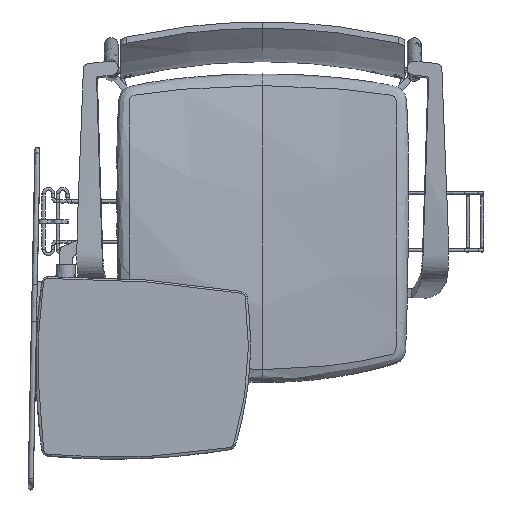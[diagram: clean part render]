
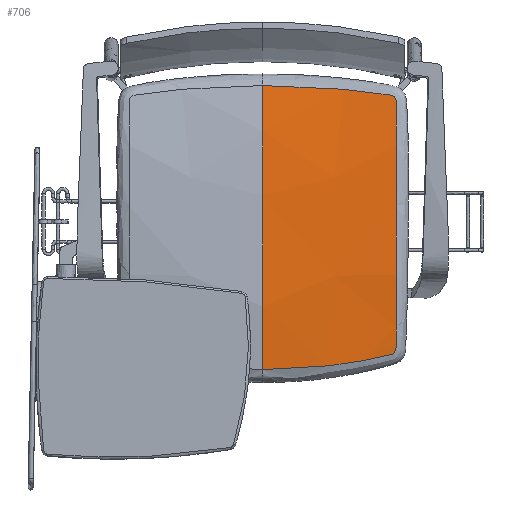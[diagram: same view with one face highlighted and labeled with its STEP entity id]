
A CAD part, top view. The second image highlights one B-rep face of the part: STEP entity #706.
In plain terms, the highlighted free-form (B-spline) face has degree [3, 3] with [6, 5] control points.
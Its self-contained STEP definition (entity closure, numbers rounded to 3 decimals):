
#14=B_SPLINE_SURFACE_WITH_KNOTS('',3,3,((#13980,#13981,#13982,#13983,#13984),
(#13985,#13986,#13987,#13988,#13989),(#13990,#13991,#13992,#13993,#13994),
(#13995,#13996,#13997,#13998,#13999),(#14000,#14001,#14002,#14003,#14004),
(#14005,#14006,#14007,#14008,#14009)),.UNSPECIFIED.,.F.,.F.,.F.,(4,1,1,
4),(4,1,4),(0.,150.405,300.811,451.216),(0.,113.023,
226.045),.UNSPECIFIED.);
#706=ADVANCED_FACE('',(#1088),#14,.T.);
#1088=FACE_OUTER_BOUND('',#1478,.T.);
#1478=EDGE_LOOP('',(#2641,#2642));
#2641=ORIENTED_EDGE('',*,*,#3690,.F.);
#2642=ORIENTED_EDGE('',*,*,#3693,.F.);
#3690=EDGE_CURVE('',#5097,#5096,#4572,.T.);
#3693=EDGE_CURVE('',#5096,#5097,#4575,.T.);
#4572=B_SPLINE_CURVE_WITH_KNOTS('',3,(#14608,#14609,#14610,#14611,#14612,
#14613),.UNSPECIFIED.,.F.,.F.,(4,1,1,4),(14.636,150.405,
300.811,436.736),.UNSPECIFIED.);
#4575=B_SPLINE_CURVE_WITH_KNOTS('',3,(#14684,#14685,#14686,#14687,#14688,
#14689,#14690,#14691,#14692,#14693,#14694,#14695,#14696,#14697,#14698,#14699,
#14700,#14701,#14702,#14703,#14704,#14705,#14706,#14707,#14708,#14709,#14710,
#14711,#14712,#14713,#14714,#14715,#14716,#14717,#14718,#14719,#14720,#14721,
#14722,#14723,#14724,#14725,#14726,#14727,#14728,#14729,#14730,#14731,#14732,
#14733,#14734,#14735,#14736,#14737,#14738,#14739,#14740,#14741,#14742,#14743,
#14744,#14745,#14746,#14747,#14748,#14749),.UNSPECIFIED.,.F.,.F.,(4,2,2,
2,1,1,1,2,2,2,2,2,1,1,1,2,2,2,2,2,2,2,2,2,1,1,1,2,2,2,2,2,1,1,1,2,2,2,4),
(-834.547,-732.977,-707.585,-682.192,
-634.077,-631.407,-628.738,-626.069,
-623.399,-620.73,-618.061,-615.391,
-612.722,-610.053,-607.384,-561.831,
-513.608,-489.497,-465.386,-417.164,
-368.942,-344.831,-320.72,-272.498,
-226.987,-224.275,-221.564,-218.853,
-216.141,-213.43,-210.718,-208.007,
-205.295,-202.584,-199.872,-151.938,
-126.615,-101.292,0.),.UNSPECIFIED.);
#5096=VERTEX_POINT('',#14600);
#5097=VERTEX_POINT('',#14601);
#13980=CARTESIAN_POINT('',(222.5,-257.5,447.92));
#13981=CARTESIAN_POINT('',(186.336,-267.419,456.436));
#13982=CARTESIAN_POINT('',(112.582,-282.432,461.217));
#13983=CARTESIAN_POINT('',(37.527,-287.459,461.479));
#13984=CARTESIAN_POINT('',(0.,-287.459,461.479));
#13985=CARTESIAN_POINT('',(222.5,-210.234,456.665));
#13986=CARTESIAN_POINT('',(186.401,-218.252,466.09));
#13987=CARTESIAN_POINT('',(112.677,-230.383,469.207));
#13988=CARTESIAN_POINT('',(37.559,-234.444,468.909));
#13989=CARTESIAN_POINT('',(0.,-234.444,468.909));
#13990=CARTESIAN_POINT('',(222.5,-115.677,460.522));
#13991=CARTESIAN_POINT('',(186.531,-119.935,467.649));
#13992=CARTESIAN_POINT('',(112.867,-126.362,463.263));
#13993=CARTESIAN_POINT('',(37.622,-128.511,461.788));
#13994=CARTESIAN_POINT('',(0.,-128.511,461.788));
#13995=CARTESIAN_POINT('',(222.5,26.117,455.406));
#13996=CARTESIAN_POINT('',(186.726,27.366,458.741));
#13997=CARTESIAN_POINT('',(113.151,29.293,448.584));
#13998=CARTESIAN_POINT('',(37.717,29.944,445.172));
#13999=CARTESIAN_POINT('',(0.,29.944,445.172));
#14000=CARTESIAN_POINT('',(222.5,120.418,444.736));
#14001=CARTESIAN_POINT('',(186.856,125.229,445.319));
#14002=CARTESIAN_POINT('',(113.341,132.56,434.981));
#14003=CARTESIAN_POINT('',(37.78,135.024,430.165));
#14004=CARTESIAN_POINT('',(0.,135.024,430.165));
#14005=CARTESIAN_POINT('',(222.5,167.5,432.588));
#14006=CARTESIAN_POINT('',(186.92,174.063,429.741));
#14007=CARTESIAN_POINT('',(113.436,184.054,417.229));
#14008=CARTESIAN_POINT('',(37.812,187.409,411.683));
#14009=CARTESIAN_POINT('',(0.,187.409,411.683));
#14600=CARTESIAN_POINT('',(0.,172.275,416.725));
#14601=CARTESIAN_POINT('',(0.,-271.984,463.345));
#14608=CARTESIAN_POINT('',(0.,-271.984,463.345));
#14609=CARTESIAN_POINT('',(0.,-224.136,468.206));
#14610=CARTESIAN_POINT('',(0.,-123.372,461.249));
#14611=CARTESIAN_POINT('',(0.,24.859,445.705));
#14612=CARTESIAN_POINT('',(0.,124.906,431.601));
#14613=CARTESIAN_POINT('',(0.,172.275,416.725));
#14684=CARTESIAN_POINT('',(0.,172.275,416.725));
#14685=CARTESIAN_POINT('',(33.428,172.274,416.725));
#14686=CARTESIAN_POINT('',(66.833,171.067,418.808));
#14687=CARTESIAN_POINT('',(108.273,168.045,423.155));
#14688=CARTESIAN_POINT('',(116.546,167.365,424.119));
#14689=CARTESIAN_POINT('',(133.064,165.851,426.169));
#14690=CARTESIAN_POINT('',(141.303,165.018,427.245));
#14691=CARTESIAN_POINT('',(165.179,162.377,430.343));
#14692=CARTESIAN_POINT('',(181.515,160.261,432.451));
#14693=CARTESIAN_POINT('',(199.038,157.674,434.137));
#14694=CARTESIAN_POINT('',(200.949,157.297,434.337));
#14695=CARTESIAN_POINT('',(202.303,156.803,434.534));
#14696=CARTESIAN_POINT('',(203.554,156.216,434.745));
#14697=CARTESIAN_POINT('',(204.158,155.865,434.863));
#14698=CARTESIAN_POINT('',(205.273,155.048,435.12));
#14699=CARTESIAN_POINT('',(205.785,154.581,435.26));
#14700=CARTESIAN_POINT('',(206.691,153.546,435.555));
#14701=CARTESIAN_POINT('',(207.084,152.978,435.71));
#14702=CARTESIAN_POINT('',(207.737,151.775,436.029));
#14703=CARTESIAN_POINT('',(207.999,151.137,436.193));
#14704=CARTESIAN_POINT('',(208.399,149.838,436.519));
#14705=CARTESIAN_POINT('',(208.689,148.451,436.857));
#14706=CARTESIAN_POINT('',(208.776,146.557,437.302));
#14707=CARTESIAN_POINT('',(208.742,129.822,441.126));
#14708=CARTESIAN_POINT('',(208.749,114.125,444.006));
#14709=CARTESIAN_POINT('',(208.73,83.211,448.722));
#14710=CARTESIAN_POINT('',(208.724,67.267,450.629));
#14711=CARTESIAN_POINT('',(208.712,43.289,453.027));
#14712=CARTESIAN_POINT('',(208.709,35.291,453.748));
#14713=CARTESIAN_POINT('',(208.701,19.285,455.088));
#14714=CARTESIAN_POINT('',(208.697,11.276,455.707));
#14715=CARTESIAN_POINT('',(208.686,-12.757,457.414));
#14716=CARTESIAN_POINT('',(208.678,-28.794,458.35));
#14717=CARTESIAN_POINT('',(208.663,-60.887,459.815));
#14718=CARTESIAN_POINT('',(208.656,-76.942,460.344));
#14719=CARTESIAN_POINT('',(208.644,-101.031,460.833));
#14720=CARTESIAN_POINT('',(208.641,-109.063,460.945));
#14721=CARTESIAN_POINT('',(208.633,-125.124,461.068));
#14722=CARTESIAN_POINT('',(208.629,-133.157,461.078));
#14723=CARTESIAN_POINT('',(208.618,-157.252,460.877));
#14724=CARTESIAN_POINT('',(208.609,-173.304,460.433));
#14725=CARTESIAN_POINT('',(208.599,-204.505,458.545));
#14726=CARTESIAN_POINT('',(208.578,-220.395,457.101));
#14727=CARTESIAN_POINT('',(208.596,-237.426,454.773));
#14728=CARTESIAN_POINT('',(208.506,-239.362,454.519));
#14729=CARTESIAN_POINT('',(208.218,-240.795,454.378));
#14730=CARTESIAN_POINT('',(207.826,-242.142,454.27));
#14731=CARTESIAN_POINT('',(207.57,-242.807,454.23));
#14732=CARTESIAN_POINT('',(206.935,-244.072,454.185));
#14733=CARTESIAN_POINT('',(206.555,-244.674,454.18));
#14734=CARTESIAN_POINT('',(205.68,-245.787,454.206));
#14735=CARTESIAN_POINT('',(205.185,-246.298,454.238));
#14736=CARTESIAN_POINT('',(204.107,-247.21,454.334));
#14737=CARTESIAN_POINT('',(203.522,-247.613,454.4));
#14738=CARTESIAN_POINT('',(202.306,-248.306,454.554));
#14739=CARTESIAN_POINT('',(200.982,-248.912,454.74));
#14740=CARTESIAN_POINT('',(199.118,-249.435,455.046));
#14741=CARTESIAN_POINT('',(181.911,-253.338,457.888));
#14742=CARTESIAN_POINT('',(165.65,-256.584,459.503));
#14743=CARTESIAN_POINT('',(141.78,-260.666,461.076));
#14744=CARTESIAN_POINT('',(133.518,-261.96,461.471));
#14745=CARTESIAN_POINT('',(116.939,-264.316,462.095));
#14746=CARTESIAN_POINT('',(108.632,-265.377,462.33));
#14747=CARTESIAN_POINT('',(67.022,-270.093,463.307));
#14748=CARTESIAN_POINT('',(33.509,-271.984,463.344));
#14749=CARTESIAN_POINT('',(0.,-271.984,463.345));
